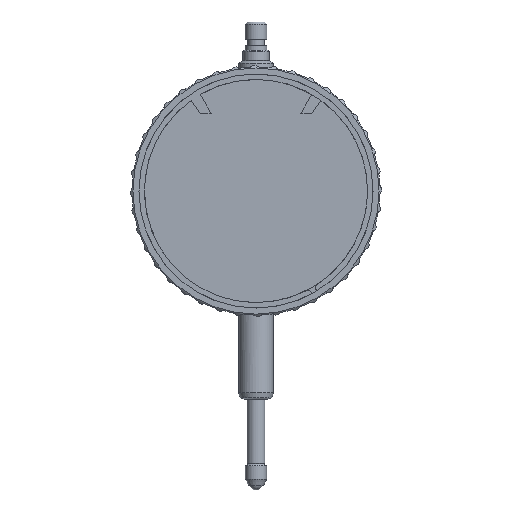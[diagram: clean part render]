
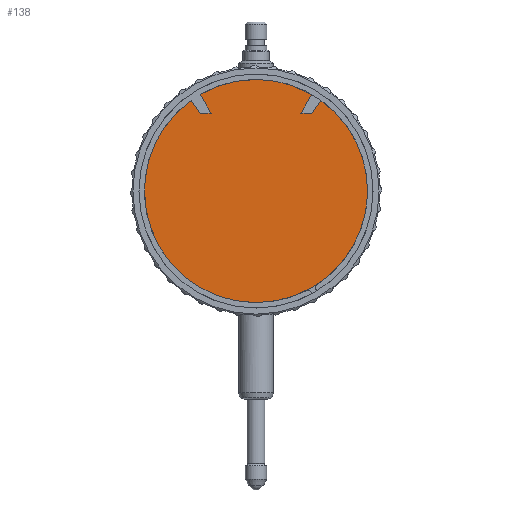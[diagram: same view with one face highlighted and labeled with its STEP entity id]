
A CAD part, front view. The second image highlights one B-rep face of the part: STEP entity #138.
In plain terms, the highlighted planar face has unit normal (0, -1, 0) as drawn and (1, 0, 0) by its records, which use the part's own axes.
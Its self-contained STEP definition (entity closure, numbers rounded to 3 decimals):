
#138=ADVANCED_FACE('',(#519),#520,.F.);
#519=FACE_OUTER_BOUND('',#1216,.T.);
#520=PLANE('',#1217);
#1216=EDGE_LOOP('',(#2121,#2122,#2123,#2124,#2125,#2126,#2127,#2128));
#1217=AXIS2_PLACEMENT_3D('',#2129,#2130,#2131);
#2121=ORIENTED_EDGE('',*,*,#4538,.T.);
#2122=ORIENTED_EDGE('',*,*,#4574,.T.);
#2123=ORIENTED_EDGE('',*,*,#4544,.T.);
#2124=ORIENTED_EDGE('',*,*,#4565,.T.);
#2125=ORIENTED_EDGE('',*,*,#4546,.T.);
#2126=ORIENTED_EDGE('',*,*,#4549,.T.);
#2127=ORIENTED_EDGE('',*,*,#4551,.T.);
#2128=ORIENTED_EDGE('',*,*,#4564,.T.);
#2129=CARTESIAN_POINT('',(13.8,0.0,0.0));
#2130=DIRECTION('',(-1.0,0.0,0.0));
#2131=DIRECTION('',(0.0,0.0,1.0));
#4538=EDGE_CURVE('',#5435,#5432,#5436,.T.);
#4544=EDGE_CURVE('',#5441,#5445,#5447,.T.);
#4546=EDGE_CURVE('',#5450,#5448,#5451,.T.);
#4549=EDGE_CURVE('',#5448,#5453,#5455,.T.);
#4551=EDGE_CURVE('',#5453,#5456,#5458,.T.);
#4564=EDGE_CURVE('',#5456,#5435,#5479,.T.);
#4565=EDGE_CURVE('',#5445,#5450,#5480,.T.);
#4574=EDGE_CURVE('',#5432,#5441,#5492,.T.);
#5432=VERTEX_POINT('',#6895);
#5435=VERTEX_POINT('',#6899);
#5436=CIRCLE('',#6900,0.875);
#5441=VERTEX_POINT('',#6906);
#5445=VERTEX_POINT('',#6911);
#5447=CIRCLE('',#6914,0.875);
#5448=VERTEX_POINT('',#6915);
#5450=VERTEX_POINT('',#6918);
#5451=LINE('',#6919,#6920);
#5453=VERTEX_POINT('',#6923);
#5455=LINE('',#6926,#6927);
#5456=VERTEX_POINT('',#6928);
#5458=LINE('',#6931,#6932);
#5479=CIRCLE('',#6963,25.75);
#5480=CIRCLE('',#6964,25.75);
#5492=CIRCLE('',#6978,27.0);
#6895=CARTESIAN_POINT('',(13.8,-23.025,14.102));
#6899=CARTESIAN_POINT('',(13.8,-21.553,14.091));
#6900=AXIS2_PLACEMENT_3D('',#11615,#11616,#11617);
#6906=CARTESIAN_POINT('',(13.8,-23.725,12.889));
#6911=CARTESIAN_POINT('',(13.8,-22.979,11.62));
#6914=AXIS2_PLACEMENT_3D('',#11627,#11628,#11629);
#6915=CARTESIAN_POINT('',(13.8,17.927,-12.821));
#6918=CARTESIAN_POINT('',(13.8,20.945,-14.979));
#6919=CARTESIAN_POINT('',(13.8,9.718,-6.95));
#6920=VECTOR('',#11631,1.);
#6923=CARTESIAN_POINT('',(13.8,17.927,-10.35));
#6926=CARTESIAN_POINT('',(13.8,17.927,-5.793));
#6927=VECTOR('',#11634,1.0);
#6928=CARTESIAN_POINT('',(13.8,22.3,-12.875));
#6931=CARTESIAN_POINT('',(13.8,10.057,-5.806));
#6932=VECTOR('',#11636,1.0);
#6963=AXIS2_PLACEMENT_3D('',#11653,#11654,#11655);
#6964=AXIS2_PLACEMENT_3D('',#11656,#11657,#11658);
#6978=AXIS2_PLACEMENT_3D('',#11679,#11680,#11681);
#11615=CARTESIAN_POINT('',(13.8,-22.285,14.569));
#11616=DIRECTION('',(-1.0,-0.0,0.0));
#11617=DIRECTION('',(0.0,-0.5,-0.866));
#11627=CARTESIAN_POINT('',(13.8,-23.76,12.015));
#11628=DIRECTION('',(-1.0,-0.0,0.0));
#11629=DIRECTION('',(0.0,-0.5,-0.866));
#11631=DIRECTION('',(0.0,-0.813,0.582));
#11634=DIRECTION('',(0.0,0.,1.0));
#11636=DIRECTION('',(0.0,0.866,-0.5));
#11653=CARTESIAN_POINT('',(13.8,0.,0.));
#11654=DIRECTION('',(1.0,-0.0,0.0));
#11655=DIRECTION('',(0.0,0.5,-0.866));
#11656=CARTESIAN_POINT('',(13.8,0.,0.));
#11657=DIRECTION('',(1.0,-0.0,0.0));
#11658=DIRECTION('',(0.0,0.5,-0.866));
#11679=CARTESIAN_POINT('',(13.8,0.0,0.0));
#11680=DIRECTION('',(1.0,0.0,-0.0));
#11681=DIRECTION('',(0.0,0.0,1.0));
